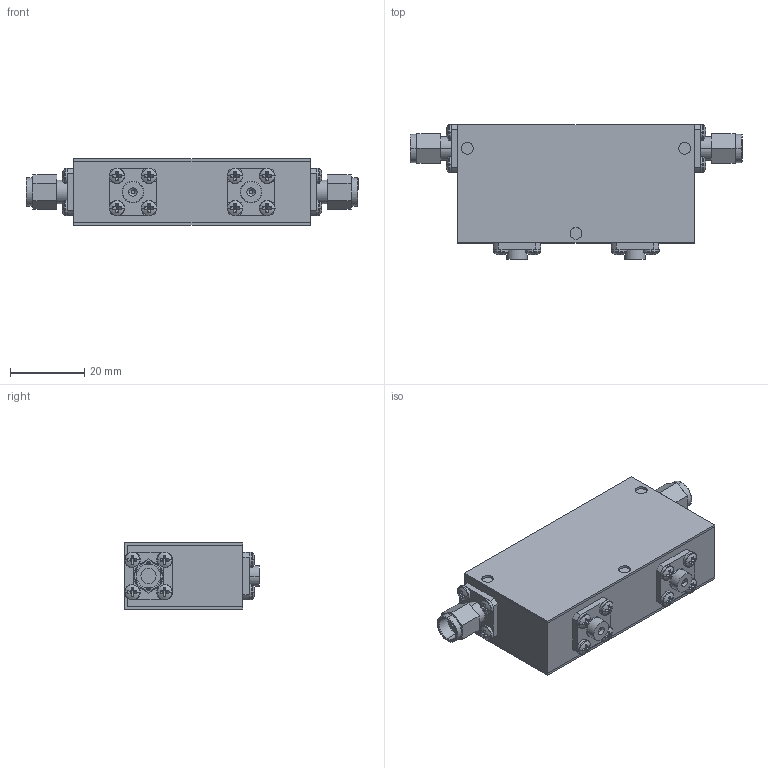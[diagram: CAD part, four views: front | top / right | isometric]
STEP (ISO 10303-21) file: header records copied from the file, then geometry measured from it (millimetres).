
FILE_DESCRIPTION (( 'STEP AP214' ), '1' );
FILE_NAME ('Package 18 Iso MM.step', '2021-12-01T20:59:05', ( '' ), ( '' ), 'SwSTEP 2.0', 'SolidWorks 2016', '' );
FILE_SCHEMA (( 'AUTOMOTIVE_DESIGN' ));
Length unit declared in the file: inch
Products named in the file (6): Package 18 Iso MM; Package Size 18; pan cross head_ai_CR-PHMS 0.086-56x0.125x0.125-N; Delta SMA-Male; Package 18; 030013-1A Same Base thickness as connectors
Assembly tree (22 placements, depth 2):
  Package 18 Iso MM
    Package 18
    pan cross head_ai_CR-PHMS 0.086-56x0.125x0.125-N  x16
    030013-1A Same Base thickness as connectors  x2
    Delta SMA-Male  x2
    Package Size 18
Bounding box: 89.26 x 36.28 x 17.78 mm (x, y, z)
Volume: 37845.5 mm3; surface area: 21201.4 mm2
Topology: 22 solids, 22 shells, 554 faces, 1260 edges, 776 vertices
Faces by surface type: plane 314, cylinder 152, torus 48, sphere 32, cone 8
Entity records: 4324 total; most frequent: DIRECTION 784, CARTESIAN_POINT 673, ORIENTED_EDGE 632, EDGE_CURVE 316, AXIS2_PLACEMENT_3D 313, VERTEX_POINT 202, EDGE_LOOP 168, VECTOR 158
